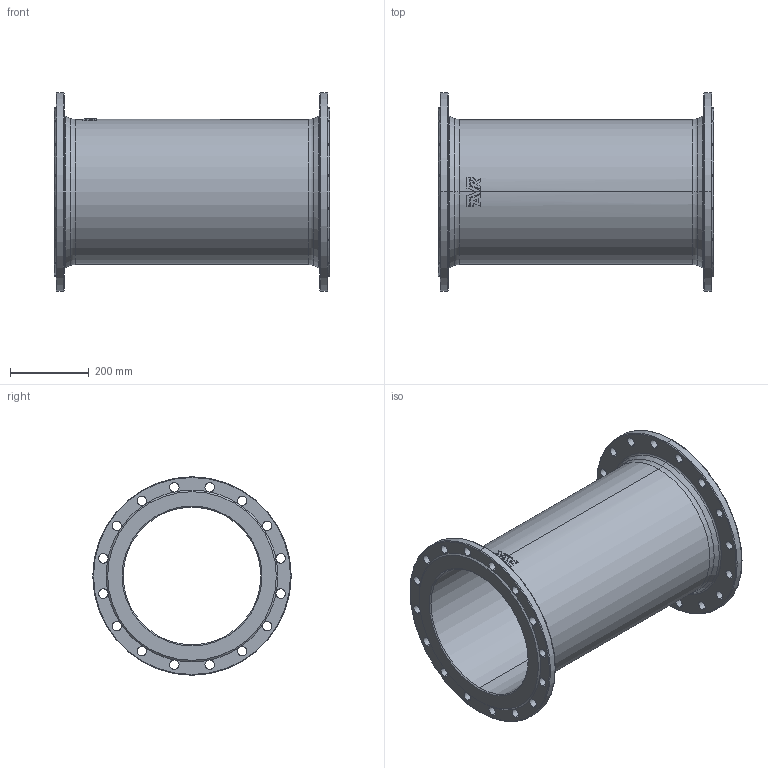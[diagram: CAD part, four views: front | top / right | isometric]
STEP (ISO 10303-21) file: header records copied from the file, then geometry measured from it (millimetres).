
FILE_DESCRIPTION (( 'STEP AP203' ), '1' );
FILE_NAME ('O_712_5010_DN350_0X_REV01.step', '2021-12-03T09:55:25', ( '' ), ( '' ), 'SwSTEP 2.0', 'SolidWorks 2019', '' );
FILE_SCHEMA (( 'CONFIG_CONTROL_DESIGN' ));
Length unit declared in the file: millimetre
Products named in the file (1): O_712_5010_DN350_0X_REV01
Bounding box: 700 x 505 x 505 mm (x, y, z)
Volume: 11615698.2 mm3; surface area: 1981479.9 mm2
Topology: 1 solids, 1 shells, 148 faces, 487 edges, 316 vertices
Faces by surface type: cylinder 77, plane 26, bspline 17, torus 16, cone 12
Entity records: 6690 total; most frequent: CARTESIAN_POINT 2167, ORIENTED_EDGE 974, DIRECTION 959, EDGE_CURVE 487, AXIS2_PLACEMENT_3D 414, VERTEX_POINT 316, CIRCLE 282, EDGE_LOOP 189
